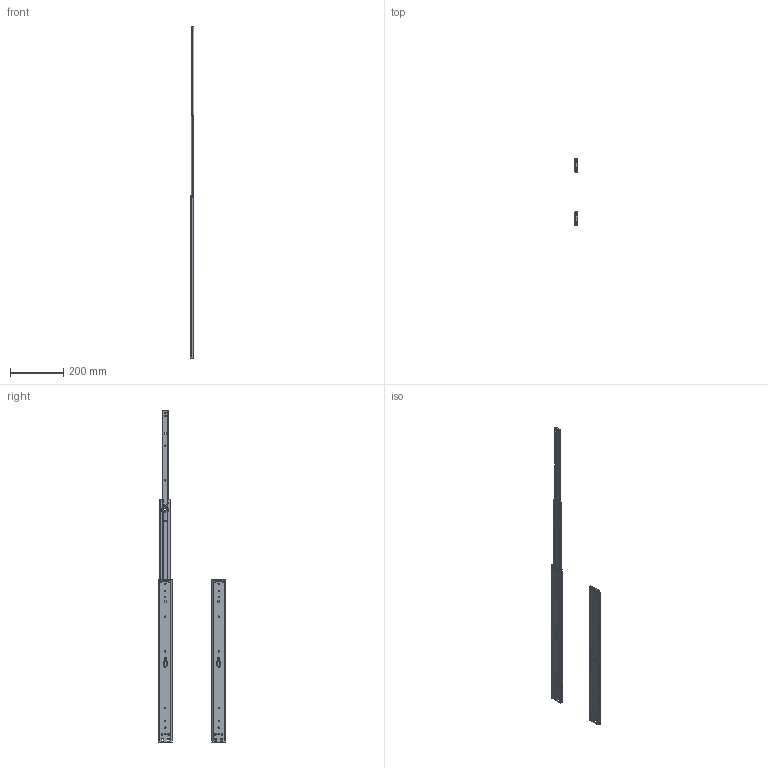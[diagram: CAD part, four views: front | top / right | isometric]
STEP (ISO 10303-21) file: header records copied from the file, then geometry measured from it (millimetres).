
FILE_DESCRIPTION(/* description */ (''),/* implementation_level */ '2;1');
FILE_NAME(/* name */ 'R:\Engineering\Distribution Website 3D\3557\DS3557-0024 open & closed.stp',/* time_stamp */ '2017-11-22T15:36:28+00:00',/* author */ ('kchown'),/* organization */ (''),/* preprocessor_version */ 'ST-DEVELOPER v15.6',/* originating_system */ 'Autodesk Inventor 2015',/* authorisation */ '');
FILE_SCHEMA (('AUTOMOTIVE_DESIGN { 1 0 10303 214 3 1 1 }'));
Length unit declared in the file: millimetre
Products named in the file (7): 5020-xxxx-o.m122301120215A_Ä¬ÈÏ¨¨
_; 5290-xxxx-CRint.m122301120215A_Ä¬ÈÏ¨
¨_; 5140-xxxx-CRi.m122301120215A_Ä¬ÈÏ¨
¨_; 5020-xxxx-o.m122301120215A_Ä¬ÈÏ¨¨
__MIR; 5290-xxxx-CRint.m122301120215A_Ä¬ÈÏ¨
¨__MIR; 5140-xxxx-CRi.m122301120215A_Ä¬ÈÏ¨
¨__MIR; DS3557-0024 open & closed
Assembly tree (6 placements, depth 2):
  DS3557-0024 open & closed
    5020-xxxx-o.m122301120215A_Ä¬ÈÏ¨¨
_
    5290-xxxx-CRint.m122301120215A_Ä¬ÈÏ¨
¨_
    5140-xxxx-CRi.m122301120215A_Ä¬ÈÏ¨
¨_
    5020-xxxx-o.m122301120215A_Ä¬ÈÏ¨¨
__MIR
    5290-xxxx-CRint.m122301120215A_Ä¬ÈÏ¨
¨__MIR
    5140-xxxx-CRi.m122301120215A_Ä¬ÈÏ¨
¨__MIR
Bounding box: 12.7 x 251.7 x 1244.6 mm (x, y, z)
Volume: 326737.2 mm3; surface area: 415804.7 mm2
Topology: 6 solids, 6 shells, 1082 faces, 2784 edges, 1708 vertices
Faces by surface type: plane 580, cylinder 440, torus 36, bspline 22, cone 4
Full cylindrical faces by diameter (mm): 3.175 x2, 4.22 x2, 6.35 x4, 6.5 x2
Entity records: 33417 total; most frequent: CARTESIAN_POINT 6243, DIRECTION 5830, ORIENTED_EDGE 5548, EDGE_CURVE 2774, AXIS2_PLACEMENT_3D 2019, LINE 1792, VECTOR 1792, VERTEX_POINT 1708
